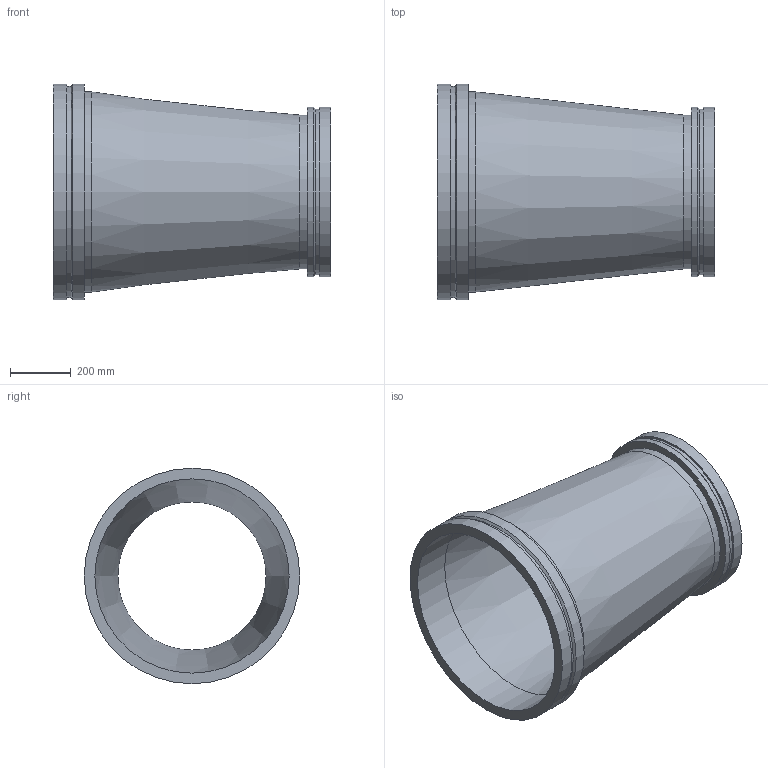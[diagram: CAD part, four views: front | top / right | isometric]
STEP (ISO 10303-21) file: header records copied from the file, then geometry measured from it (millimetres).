
FILE_DESCRIPTION(/* description */ ('VIC REDUCER CONCENTRIC No W50 VR','CAx-IF Rec.Pracs.---Representation and Presentation of Product Manufacturing Information (PMI)---4.0---2014-10-13'),/* implementation_level */ '2;1');
FILE_NAME(/* name */ 'C:\Users\kkamble\AppData\Roaming\Autodesk\ApplicationPlugins\Back Up\Victaulic_Vic-Ring_Reducer Concentric_No W50 VR (AGR)\Victaulic_Vic-Ring_Reducer Concentric_No W50 VR (AGR)_26.0x20.0 (650x500).stp',/* time_stamp */ '2020-09-10T11:45:57+05:00',/* author */ ('cps_temp'),/* organization */ ('Victaulic'),/* preprocessor_version */ 'ST-DEVELOPER v17.2',/* originating_system */ 'Autodesk Inventor 2019',/* authorisation */ '');
FILE_SCHEMA (('AP242_MANAGED_MODEL_BASED_3D_ENGINEERING_MIM_LF { 1 0 10303 442 1 1 4 }'));
Length unit declared in the file: inch
Products named in the file (1): W50 VR-26.0x20.0
Bounding box: 914.4 x 711.2 x 711.2 mm (x, y, z)
Volume: 24162440 mm3; surface area: 3624761 mm2
Topology: 1 solids, 1 shells, 20 faces, 54 edges, 40 vertices
Faces by surface type: cylinder 10, plane 6, cone 4
Full cylindrical faces by diameter (mm): 488.95 x1, 508 x1, 546.1 x1, 558.8 x2, 641.35 x1, 660.4 x1, 696.722 x1, 711.2 x2
Entity records: 830 total; most frequent: DIRECTION 162, CARTESIAN_POINT 132, ORIENTED_EDGE 108, AXIS2_PLACEMENT_3D 74, EDGE_CURVE 54, CIRCLE 40, VERTEX_POINT 40, EDGE_LOOP 26
